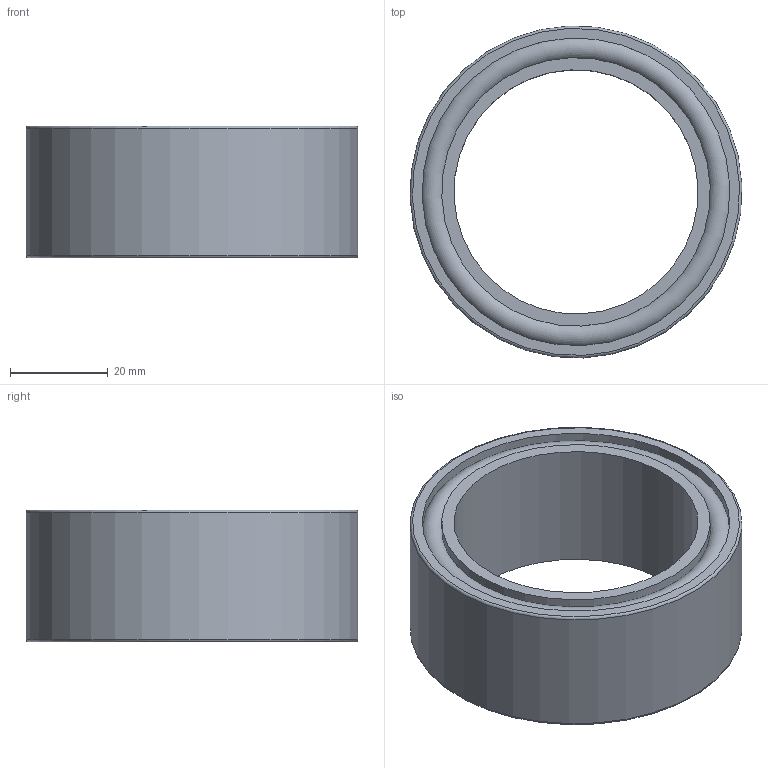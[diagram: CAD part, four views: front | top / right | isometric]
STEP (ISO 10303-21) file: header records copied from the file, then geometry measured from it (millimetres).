
FILE_DESCRIPTION(/* description */ (''),/* implementation_level */ '2;1');
FILE_NAME(/* name */ '300685 FP 463 M.stp',/* time_stamp */ '2016-11-17T14:33:06+01:00',/* author */ (''),/* organization */ (''),/* preprocessor_version */ 'ST-DEVELOPER v15',/* originating_system */ 'SIEMENS PLM Software NX 8.5',/* authorisation */ '');
FILE_SCHEMA (('CONFIG_CONTROL_DESIGN'));
Length unit declared in the file: millimetre
Products named in the file (3): ATE0000080_01; ATE0000093_01; ATE0000095_01
Assembly tree (2 placements, depth 2):
  ATE0000095_01
    ATE0000093_01
    ATE0000080_01
Bounding box: 67.93 x 67.93 x 27 mm (x, y, z)
Volume: 35555.7 mm3; surface area: 32173.4 mm2
Topology: 3 solids, 3 shells, 70 faces, 153 edges, 101 vertices
Faces by surface type: plane 44, cylinder 22, torus 4
Full cylindrical faces by diameter (mm): 50 x1, 55 x3, 59 x1, 60 x1, 61 x1, 62 x2, 63 x4, 68 x1
Entity records: 2088 total; most frequent: DIRECTION 334, CARTESIAN_POINT 293, ORIENTED_EDGE 252, AXIS2_PLACEMENT_3D 135, EDGE_CURVE 126, EDGE_LOOP 108, VERTEX_POINT 94, ADVANCED_FACE 70
